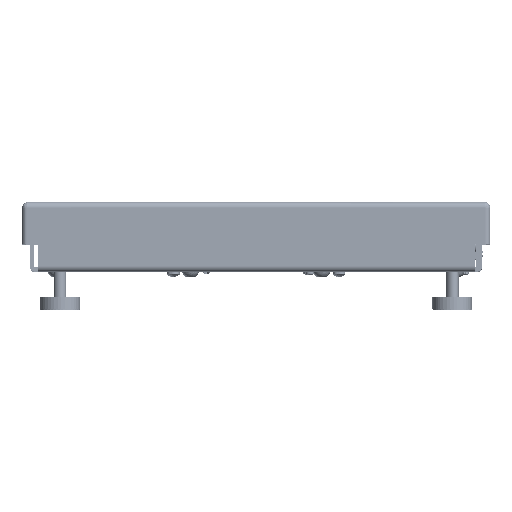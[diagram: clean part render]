
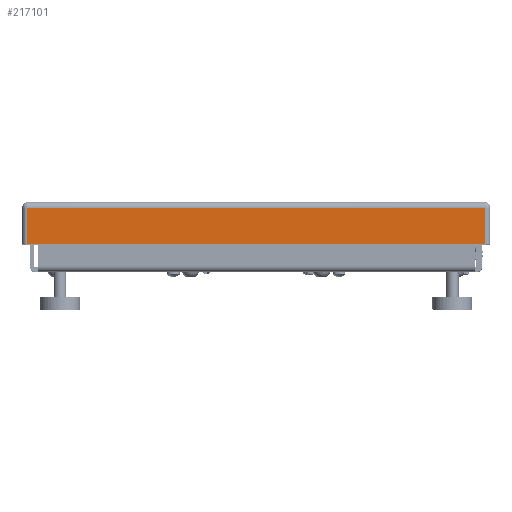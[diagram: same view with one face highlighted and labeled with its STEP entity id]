
A CAD part, top view. The second image highlights one B-rep face of the part: STEP entity #217101.
In plain terms, the highlighted planar face has unit normal (0, 0, 1) as drawn and (0, 0, -1) by its records, which use the part's own axes.
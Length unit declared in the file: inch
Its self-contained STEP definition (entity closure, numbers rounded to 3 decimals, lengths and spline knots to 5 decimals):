
#11361 = LINE ( 'NONE', #383234, #737255 ) ;
#15587 = CARTESIAN_POINT ( 'NONE',  ( 0., 0., -5.86998 ) ) ;
#21311 = LINE ( 'NONE', #596903, #211748 ) ;
#21578 = DIRECTION ( 'NONE',  ( 1., 0., 0. ) ) ;
#41106 = DIRECTION ( 'NONE',  ( 0., 1., 0. ) ) ;
#44335 = LINE ( 'NONE', #232877, #452151 ) ;
#65615 = VERTEX_POINT ( 'NONE', #398389 ) ;
#70798 = EDGE_CURVE ( 'NONE', #65615, #77752, #343868, .T. ) ;
#72362 = DIRECTION ( 'NONE',  ( 0., 1., 0. ) ) ;
#77752 = VERTEX_POINT ( 'NONE', #629083 ) ;
#122681 = ORIENTED_EDGE ( 'NONE', *, *, #593887, .F. ) ;
#210624 = ORIENTED_EDGE ( 'NONE', *, *, #70798, .T. ) ;
#211748 = VECTOR ( 'NONE', #21578, 39.37008 ) ;
#217101 = ADVANCED_FACE ( 'NONE', ( #585000 ), #519789, .F. ) ;
#232877 = CARTESIAN_POINT ( 'NONE',  ( 5.86998, 0.032, -5.86998 ) ) ;
#241620 = VERTEX_POINT ( 'NONE', #327275 ) ;
#256453 = EDGE_LOOP ( 'NONE', ( #122681, #210624, #752645, #566907 ) ) ;
#283586 = EDGE_CURVE ( 'NONE', #241620, #744413, #11361, .T. ) ;
#291182 = DIRECTION ( 'NONE',  ( 1., 0., 0. ) ) ;
#295888 = AXIS2_PLACEMENT_3D ( 'NONE', #15587, #423323, #595918 ) ;
#327275 = CARTESIAN_POINT ( 'NONE',  ( 5.73814, 0.032, -5.86998 ) ) ;
#343868 = LINE ( 'NONE', #371124, #407127 ) ;
#371124 = CARTESIAN_POINT ( 'NONE',  ( -5.73814, 0., -5.86998 ) ) ;
#383234 = CARTESIAN_POINT ( 'NONE',  ( 5.73814, 0., -5.86998 ) ) ;
#398389 = CARTESIAN_POINT ( 'NONE',  ( -5.73814, 0.032, -5.86998 ) ) ;
#407127 = VECTOR ( 'NONE', #72362, 39.37008 ) ;
#423323 = DIRECTION ( 'NONE',  ( 0., 0., 1. ) ) ;
#452151 = VECTOR ( 'NONE', #291182, 39.37008 ) ;
#506298 = CARTESIAN_POINT ( 'NONE',  ( 5.73814, 0.946, -5.86998 ) ) ;
#508985 = EDGE_CURVE ( 'NONE', #77752, #744413, #21311, .T. ) ;
#519789 = PLANE ( 'NONE',  #295888 ) ;
#566907 = ORIENTED_EDGE ( 'NONE', *, *, #283586, .F. ) ;
#585000 = FACE_OUTER_BOUND ( 'NONE', #256453, .T. ) ;
#593887 = EDGE_CURVE ( 'NONE', #65615, #241620, #44335, .T. ) ;
#595918 = DIRECTION ( 'NONE',  ( 0., -1., 0. ) ) ;
#596903 = CARTESIAN_POINT ( 'NONE',  ( 0., 0.946, -5.86998 ) ) ;
#629083 = CARTESIAN_POINT ( 'NONE',  ( -5.73814, 0.946, -5.86998 ) ) ;
#737255 = VECTOR ( 'NONE', #41106, 39.37008 ) ;
#744413 = VERTEX_POINT ( 'NONE', #506298 ) ;
#752645 = ORIENTED_EDGE ( 'NONE', *, *, #508985, .T. ) ;
